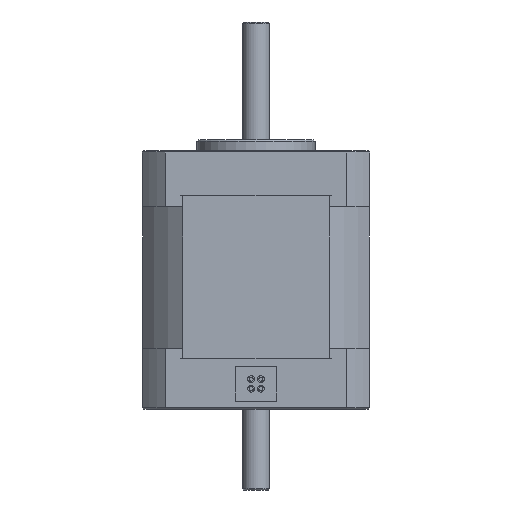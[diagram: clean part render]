
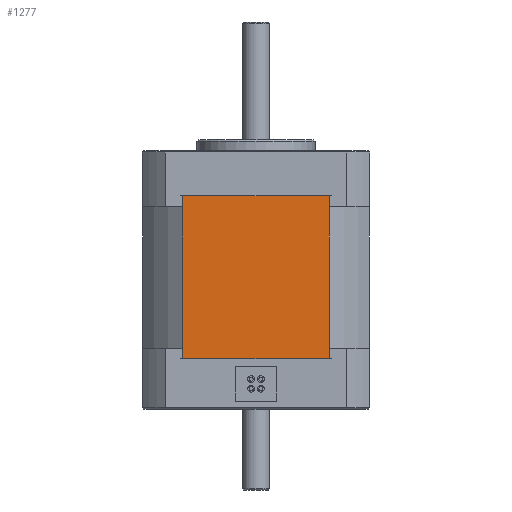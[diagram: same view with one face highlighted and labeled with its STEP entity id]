
A CAD part, front view. The second image highlights one B-rep face of the part: STEP entity #1277.
In plain terms, the highlighted planar face has unit normal (0, -1, 0).
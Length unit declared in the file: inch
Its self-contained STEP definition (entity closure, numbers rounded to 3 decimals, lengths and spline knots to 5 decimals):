
#612 = VERTEX_POINT ( 'NONE', #8163 ) ;
#617 = EDGE_CURVE ( 'NONE', #612, #628, #8149, .T. ) ;
#628 = VERTEX_POINT ( 'NONE', #8191 ) ;
#1022 = EDGE_CURVE ( 'NONE', #628, #5414, #8641, .T. ) ;
#1026 = ORIENTED_EDGE ( 'NONE', *, *, #1022, .F. ) ;
#1039 = EDGE_CURVE ( 'NONE', #612, #5393, #8687, .T. ) ;
#1049 = ORIENTED_EDGE ( 'NONE', *, *, #5417, .T. ) ;
#1054 = EDGE_LOOP ( 'NONE', ( #1049, #1026, #1275, #1055 ) ) ;
#1055 = ORIENTED_EDGE ( 'NONE', *, *, #1039, .T. ) ;
#1275 = ORIENTED_EDGE ( 'NONE', *, *, #617, .F. ) ;
#1277 = ADVANCED_FACE ( 'NONE', ( #8764 ), #8864, .F. ) ;
#5393 = VERTEX_POINT ( 'NONE', #9697 ) ;
#5414 = VERTEX_POINT ( 'NONE', #9696 ) ;
#5417 = EDGE_CURVE ( 'NONE', #5393, #5414, #9690, .T. ) ;
#8144 = DIRECTION ( 'NONE',  ( -1., 0., 0. ) ) ;
#8147 = VECTOR ( 'NONE', #8144, 39.37008 ) ;
#8148 = CARTESIAN_POINT ( 'NONE',  ( 0.53473, -0.829, -1.52 ) ) ;
#8149 = LINE ( 'NONE', #8148, #8147 ) ;
#8163 = CARTESIAN_POINT ( 'NONE',  ( 0.53473, -0.829, -1.52 ) ) ;
#8191 = CARTESIAN_POINT ( 'NONE',  ( -0.53473, -0.829, -1.52 ) ) ;
#8632 = DIRECTION ( 'NONE',  ( 0., 0., 1. ) ) ;
#8633 = VECTOR ( 'NONE', #8632, 39.37008 ) ;
#8634 = CARTESIAN_POINT ( 'NONE',  ( -0.53473, -0.829, -1.52 ) ) ;
#8641 = LINE ( 'NONE', #8634, #8633 ) ;
#8680 = VECTOR ( 'NONE', #8691, 39.37008 ) ;
#8687 = LINE ( 'NONE', #8692, #8680 ) ;
#8691 = DIRECTION ( 'NONE',  ( 0., 0., 1. ) ) ;
#8692 = CARTESIAN_POINT ( 'NONE',  ( 0.53473, -0.829, -1.52 ) ) ;
#8757 = AXIS2_PLACEMENT_3D ( 'NONE', #8920, #8919, #8917 ) ;
#8764 = FACE_OUTER_BOUND ( 'NONE', #1054, .T. ) ;
#8864 = PLANE ( 'NONE',  #8757 ) ;
#8917 = DIRECTION ( 'NONE',  ( -1., 0., 0. ) ) ;
#8919 = DIRECTION ( 'NONE',  ( 0., 1., 0. ) ) ;
#8920 = CARTESIAN_POINT ( 'NONE',  ( 0.53473, -0.829, -1.52 ) ) ;
#9690 = LINE ( 'NONE', #9732, #9731 ) ;
#9696 = CARTESIAN_POINT ( 'NONE',  ( -0.53473, -0.829, -0.33 ) ) ;
#9697 = CARTESIAN_POINT ( 'NONE',  ( 0.53473, -0.829, -0.33 ) ) ;
#9730 = DIRECTION ( 'NONE',  ( -1., 0., 0. ) ) ;
#9731 = VECTOR ( 'NONE', #9730, 39.37008 ) ;
#9732 = CARTESIAN_POINT ( 'NONE',  ( 0.53473, -0.829, -0.33 ) ) ;
